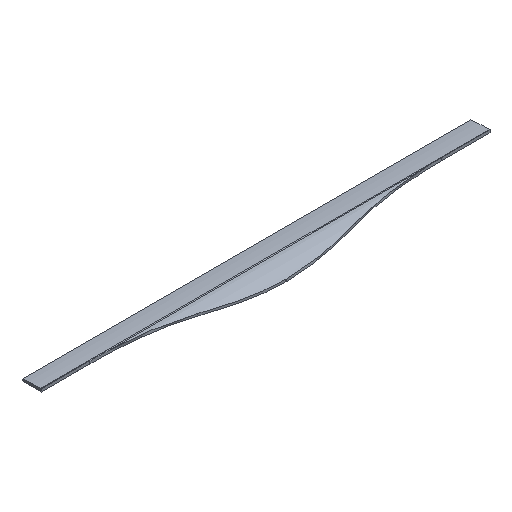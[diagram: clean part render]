
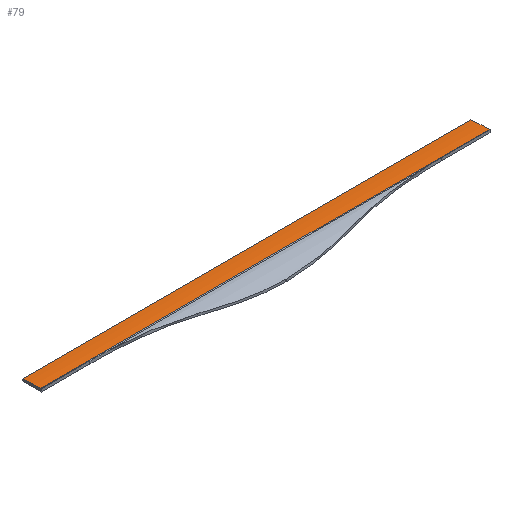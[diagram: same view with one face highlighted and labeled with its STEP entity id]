
A CAD part, isometric view. The second image highlights one B-rep face of the part: STEP entity #79.
In plain terms, the highlighted cylindrical face has radius 176.85 mm (diameter 353.7 mm), a partial arc.
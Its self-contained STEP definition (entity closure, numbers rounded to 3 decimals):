
#79 = ADVANCED_FACE( '', ( #174 ), #175, .T. );
#174 = FACE_OUTER_BOUND( '', #285, .T. );
#175 = CYLINDRICAL_SURFACE( '', #286, 176.85 );
#285 = EDGE_LOOP( '', ( #384, #385, #386, #387 ) );
#286 = AXIS2_PLACEMENT_3D( '', #388, #389, #390 );
#384 = ORIENTED_EDGE( '', *, *, #687, .T. );
#385 = ORIENTED_EDGE( '', *, *, #688, .F. );
#386 = ORIENTED_EDGE( '', *, *, #689, .F. );
#387 = ORIENTED_EDGE( '', *, *, #690, .T. );
#388 = CARTESIAN_POINT( '', ( 247.5, -11., -173.85 ) );
#389 = DIRECTION( '', ( 1., 0., 0. ) );
#390 = DIRECTION( '', ( 0., 0., 1. ) );
#687 = EDGE_CURVE( '', #806, #807, #808, .T. );
#688 = EDGE_CURVE( '', #809, #807, #810, .T. );
#689 = EDGE_CURVE( '', #811, #809, #812, .T. );
#690 = EDGE_CURVE( '', #811, #806, #813, .T. );
#806 = VERTEX_POINT( '', #983 );
#807 = VERTEX_POINT( '', #984 );
#808 = CIRCLE( '', #985, 176.85 );
#809 = VERTEX_POINT( '', #986 );
#810 = LINE( '', #987, #988 );
#811 = VERTEX_POINT( '', #989 );
#812 = CIRCLE( '', #990, 176.85 );
#813 = LINE( '', #991, #992 );
#983 = CARTESIAN_POINT( '', ( -247.5, 9.5, 1.808 ) );
#984 = CARTESIAN_POINT( '', ( -247.5, -11., 3. ) );
#985 = AXIS2_PLACEMENT_3D( '', #1310, #1311, #1312 );
#986 = CARTESIAN_POINT( '', ( 247.5, -11., 3. ) );
#987 = CARTESIAN_POINT( '', ( 247.5, -11., 3. ) );
#988 = VECTOR( '', #1313, 1000. );
#989 = CARTESIAN_POINT( '', ( 247.5, 9.5, 1.808 ) );
#990 = AXIS2_PLACEMENT_3D( '', #1314, #1315, #1316 );
#991 = CARTESIAN_POINT( '', ( 247.5, 9.5, 1.808 ) );
#992 = VECTOR( '', #1317, 1000. );
#1310 = CARTESIAN_POINT( '', ( -247.5, -11., -173.85 ) );
#1311 = DIRECTION( '', ( 1., 0., 0. ) );
#1312 = DIRECTION( '', ( 0., 0., -1. ) );
#1313 = DIRECTION( '', ( -1., 0., 0. ) );
#1314 = CARTESIAN_POINT( '', ( 247.5, -11., -173.85 ) );
#1315 = DIRECTION( '', ( 1., 0., 0. ) );
#1316 = DIRECTION( '', ( 0., 0., -1. ) );
#1317 = DIRECTION( '', ( -1., 0., 0. ) );
